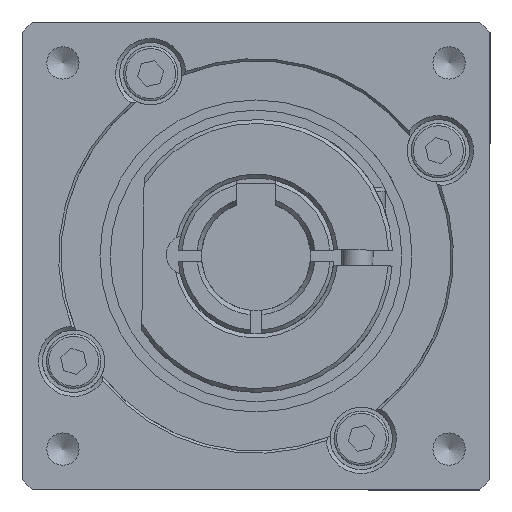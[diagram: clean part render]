
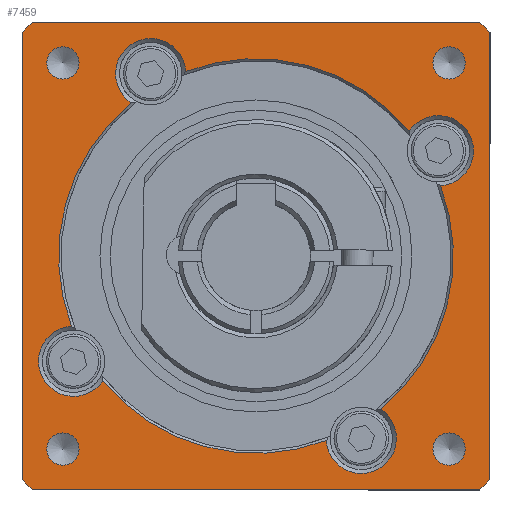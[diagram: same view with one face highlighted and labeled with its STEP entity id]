
A CAD part, front view. The second image highlights one B-rep face of the part: STEP entity #7459.
In plain terms, the highlighted planar face has unit normal (0, -1, 0).
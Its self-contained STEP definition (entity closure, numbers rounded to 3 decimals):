
#7195=CARTESIAN_POINT('',(-19.622,-18.,-15.971));
#7196=VERTEX_POINT('',#7195);
#7204=CARTESIAN_POINT('',(9.007,-18.,-23.642));
#7205=VERTEX_POINT('',#7204);
#7206=CARTESIAN_POINT('',(0.,-18.,0.));
#7207=DIRECTION('',(0.0,-1.0,0.0));
#7208=DIRECTION('',(0.0,0.0,-1.0));
#7209=AXIS2_PLACEMENT_3D('',#7206,#7207,#7208);
#7210=CIRCLE('',#7209,25.3);
#7211=EDGE_CURVE('',#7196,#7205,#7210,.T.);
#7238=CARTESIAN_POINT('',(15.971,-18.,-19.622));
#7239=VERTEX_POINT('',#7238);
#7240=CARTESIAN_POINT('',(13.5,-18.,-23.383));
#7241=DIRECTION('',(0.0,-1.0,0.0));
#7242=DIRECTION('',(1.0,0.0,0.0));
#7243=AXIS2_PLACEMENT_3D('',#7240,#7241,#7242);
#7244=CIRCLE('',#7243,4.5);
#7245=EDGE_CURVE('',#7205,#7239,#7244,.T.);
#7284=CARTESIAN_POINT('',(0.,-18.,-33.25));
#7285=DIRECTION('',(0.0,-1.0,0.0));
#7286=DIRECTION('',(-1.0,0.0,0.0));
#7287=AXIS2_PLACEMENT_3D('',#7284,#7285,#7286);
#7288=PLANE('',#7287);
#7289=CARTESIAN_POINT('',(28.675,-18.,30.));
#7290=VERTEX_POINT('',#7289);
#7291=CARTESIAN_POINT('',(-28.675,-18.,30.));
#7292=VERTEX_POINT('',#7291);
#7293=CARTESIAN_POINT('',(28.675,-18.,30.));
#7294=DIRECTION('',(-1.0,0.0,0.0));
#7295=VECTOR('',#7294,57.35);
#7296=LINE('',#7293,#7295);
#7297=EDGE_CURVE('',#7290,#7292,#7296,.T.);
#7298=ORIENTED_EDGE('',*,*,#7297,.T.);
#7299=CARTESIAN_POINT('',(-30.,-18.,28.675));
#7300=VERTEX_POINT('',#7299);
#7301=CARTESIAN_POINT('',(0.,-18.,0.));
#7302=DIRECTION('',(0.0,1.0,0.0));
#7303=DIRECTION('',(0.0,0.0,-1.0));
#7304=AXIS2_PLACEMENT_3D('',#7301,#7302,#7303);
#7305=CIRCLE('',#7304,41.5);
#7306=EDGE_CURVE('',#7300,#7292,#7305,.T.);
#7307=ORIENTED_EDGE('',*,*,#7306,.F.);
#7308=CARTESIAN_POINT('',(-30.,-18.,-28.675));
#7309=VERTEX_POINT('',#7308);
#7310=CARTESIAN_POINT('',(-30.,-18.,28.675));
#7311=DIRECTION('',(0.0,0.0,-1.0));
#7312=VECTOR('',#7311,57.35);
#7313=LINE('',#7310,#7312);
#7314=EDGE_CURVE('',#7300,#7309,#7313,.T.);
#7315=ORIENTED_EDGE('',*,*,#7314,.T.);
#7316=CARTESIAN_POINT('',(-28.675,-18.,-30.));
#7317=VERTEX_POINT('',#7316);
#7318=CARTESIAN_POINT('',(0.,-18.,0.));
#7319=DIRECTION('',(0.0,1.0,0.0));
#7320=DIRECTION('',(0.0,0.0,-1.0));
#7321=AXIS2_PLACEMENT_3D('',#7318,#7319,#7320);
#7322=CIRCLE('',#7321,41.5);
#7323=EDGE_CURVE('',#7317,#7309,#7322,.T.);
#7324=ORIENTED_EDGE('',*,*,#7323,.F.);
#7325=CARTESIAN_POINT('',(28.675,-18.,-30.));
#7326=VERTEX_POINT('',#7325);
#7327=CARTESIAN_POINT('',(-28.675,-18.,-30.));
#7328=DIRECTION('',(1.0,0.0,0.0));
#7329=VECTOR('',#7328,57.35);
#7330=LINE('',#7327,#7329);
#7331=EDGE_CURVE('',#7317,#7326,#7330,.T.);
#7332=ORIENTED_EDGE('',*,*,#7331,.T.);
#7333=CARTESIAN_POINT('',(30.,-18.,-28.675));
#7334=VERTEX_POINT('',#7333);
#7335=CARTESIAN_POINT('',(0.,-18.,0.));
#7336=DIRECTION('',(0.0,1.0,0.0));
#7337=DIRECTION('',(0.0,0.0,-1.0));
#7338=AXIS2_PLACEMENT_3D('',#7335,#7336,#7337);
#7339=CIRCLE('',#7338,41.5);
#7340=EDGE_CURVE('',#7334,#7326,#7339,.T.);
#7341=ORIENTED_EDGE('',*,*,#7340,.F.);
#7342=CARTESIAN_POINT('',(30.,-18.,28.675));
#7343=VERTEX_POINT('',#7342);
#7344=CARTESIAN_POINT('',(30.,-18.,-28.675));
#7345=DIRECTION('',(0.0,0.0,1.0));
#7346=VECTOR('',#7345,57.35);
#7347=LINE('',#7344,#7346);
#7348=EDGE_CURVE('',#7334,#7343,#7347,.T.);
#7349=ORIENTED_EDGE('',*,*,#7348,.T.);
#7350=CARTESIAN_POINT('',(0.,-18.,0.));
#7351=DIRECTION('',(0.0,1.0,0.0));
#7352=DIRECTION('',(0.0,0.0,-1.0));
#7353=AXIS2_PLACEMENT_3D('',#7350,#7351,#7352);
#7354=CIRCLE('',#7353,41.5);
#7355=EDGE_CURVE('',#7290,#7343,#7354,.T.);
#7356=ORIENTED_EDGE('',*,*,#7355,.F.);
#7357=EDGE_LOOP('',(#7298,#7307,#7315,#7324,#7332,#7341,#7349,#7356));
#7358=FACE_OUTER_BOUND('',#7357,.T.);
#7359=CARTESIAN_POINT('',(-26.816,-18.,-24.749));
#7360=VERTEX_POINT('',#7359);
#7361=CARTESIAN_POINT('',(-24.749,-18.,-24.749));
#7362=DIRECTION('',(0.0,1.0,0.0));
#7363=DIRECTION('',(-1.0,0.0,0.0));
#7364=AXIS2_PLACEMENT_3D('',#7361,#7362,#7363);
#7365=CIRCLE('',#7364,2.067);
#7366=EDGE_CURVE('',#7360,#7360,#7365,.T.);
#7367=ORIENTED_EDGE('',*,*,#7366,.T.);
#7368=EDGE_LOOP('',(#7367));
#7369=FACE_BOUND('',#7368,.T.);
#7370=CARTESIAN_POINT('',(-24.749,-18.,26.816));
#7371=VERTEX_POINT('',#7370);
#7372=CARTESIAN_POINT('',(-24.749,-18.,24.749));
#7373=DIRECTION('',(0.0,1.0,0.0));
#7374=DIRECTION('',(0.0,0.0,1.0));
#7375=AXIS2_PLACEMENT_3D('',#7372,#7373,#7374);
#7376=CIRCLE('',#7375,2.067);
#7377=EDGE_CURVE('',#7371,#7371,#7376,.T.);
#7378=ORIENTED_EDGE('',*,*,#7377,.T.);
#7379=EDGE_LOOP('',(#7378));
#7380=FACE_BOUND('',#7379,.T.);
#7381=CARTESIAN_POINT('',(26.816,-18.,24.749));
#7382=VERTEX_POINT('',#7381);
#7383=CARTESIAN_POINT('',(24.749,-18.,24.749));
#7384=DIRECTION('',(0.0,1.0,0.0));
#7385=DIRECTION('',(1.0,0.0,0.0));
#7386=AXIS2_PLACEMENT_3D('',#7383,#7384,#7385);
#7387=CIRCLE('',#7386,2.067);
#7388=EDGE_CURVE('',#7382,#7382,#7387,.T.);
#7389=ORIENTED_EDGE('',*,*,#7388,.T.);
#7390=EDGE_LOOP('',(#7389));
#7391=FACE_BOUND('',#7390,.T.);
#7392=CARTESIAN_POINT('',(24.749,-18.,-26.816));
#7393=VERTEX_POINT('',#7392);
#7394=CARTESIAN_POINT('',(24.749,-18.,-24.749));
#7395=DIRECTION('',(0.0,1.0,0.0));
#7396=DIRECTION('',(0.0,0.0,-1.0));
#7397=AXIS2_PLACEMENT_3D('',#7394,#7395,#7396);
#7398=CIRCLE('',#7397,2.067);
#7399=EDGE_CURVE('',#7393,#7393,#7398,.T.);
#7400=ORIENTED_EDGE('',*,*,#7399,.T.);
#7401=EDGE_LOOP('',(#7400));
#7402=FACE_BOUND('',#7401,.T.);
#7403=ORIENTED_EDGE('',*,*,#7211,.F.);
#7404=CARTESIAN_POINT('',(-23.642,-18.,-9.007));
#7405=VERTEX_POINT('',#7404);
#7406=CARTESIAN_POINT('',(-23.383,-18.,-13.5));
#7407=DIRECTION('',(0.0,-1.0,0.0));
#7408=DIRECTION('',(0.0,0.0,-1.0));
#7409=AXIS2_PLACEMENT_3D('',#7406,#7407,#7408);
#7410=CIRCLE('',#7409,4.5);
#7411=EDGE_CURVE('',#7405,#7196,#7410,.T.);
#7412=ORIENTED_EDGE('',*,*,#7411,.F.);
#7413=CARTESIAN_POINT('',(-15.971,-18.,19.622));
#7414=VERTEX_POINT('',#7413);
#7415=CARTESIAN_POINT('',(0.,-18.,0.));
#7416=DIRECTION('',(0.0,-1.0,0.0));
#7417=DIRECTION('',(0.0,0.0,1.0));
#7418=AXIS2_PLACEMENT_3D('',#7415,#7416,#7417);
#7419=CIRCLE('',#7418,25.3);
#7420=EDGE_CURVE('',#7414,#7405,#7419,.T.);
#7421=ORIENTED_EDGE('',*,*,#7420,.F.);
#7422=CARTESIAN_POINT('',(-9.007,-18.,23.642));
#7423=VERTEX_POINT('',#7422);
#7424=CARTESIAN_POINT('',(-13.5,-18.,23.383));
#7425=DIRECTION('',(0.0,-1.0,0.0));
#7426=DIRECTION('',(-1.0,0.0,0.0));
#7427=AXIS2_PLACEMENT_3D('',#7424,#7425,#7426);
#7428=CIRCLE('',#7427,4.5);
#7429=EDGE_CURVE('',#7423,#7414,#7428,.T.);
#7430=ORIENTED_EDGE('',*,*,#7429,.F.);
#7431=CARTESIAN_POINT('',(19.622,-18.,15.971));
#7432=VERTEX_POINT('',#7431);
#7433=CARTESIAN_POINT('',(0.,-18.,0.));
#7434=DIRECTION('',(0.0,-1.0,0.0));
#7435=DIRECTION('',(0.0,0.0,1.0));
#7436=AXIS2_PLACEMENT_3D('',#7433,#7434,#7435);
#7437=CIRCLE('',#7436,25.3);
#7438=EDGE_CURVE('',#7432,#7423,#7437,.T.);
#7439=ORIENTED_EDGE('',*,*,#7438,.F.);
#7440=CARTESIAN_POINT('',(23.642,-18.,9.007));
#7441=VERTEX_POINT('',#7440);
#7442=CARTESIAN_POINT('',(23.383,-18.,13.5));
#7443=DIRECTION('',(0.0,-1.0,0.0));
#7444=DIRECTION('',(0.0,0.0,1.0));
#7445=AXIS2_PLACEMENT_3D('',#7442,#7443,#7444);
#7446=CIRCLE('',#7445,4.5);
#7447=EDGE_CURVE('',#7441,#7432,#7446,.T.);
#7448=ORIENTED_EDGE('',*,*,#7447,.F.);
#7449=CARTESIAN_POINT('',(0.,-18.,0.));
#7450=DIRECTION('',(0.0,-1.0,0.0));
#7451=DIRECTION('',(0.0,0.0,-1.0));
#7452=AXIS2_PLACEMENT_3D('',#7449,#7450,#7451);
#7453=CIRCLE('',#7452,25.3);
#7454=EDGE_CURVE('',#7239,#7441,#7453,.T.);
#7455=ORIENTED_EDGE('',*,*,#7454,.F.);
#7456=ORIENTED_EDGE('',*,*,#7245,.F.);
#7457=EDGE_LOOP('',(#7403,#7412,#7421,#7430,#7439,#7448,#7455,#7456));
#7458=FACE_BOUND('',#7457,.T.);
#7459=ADVANCED_FACE('',(#7358,#7369,#7380,#7391,#7402,#7458),#7288,.T.);
